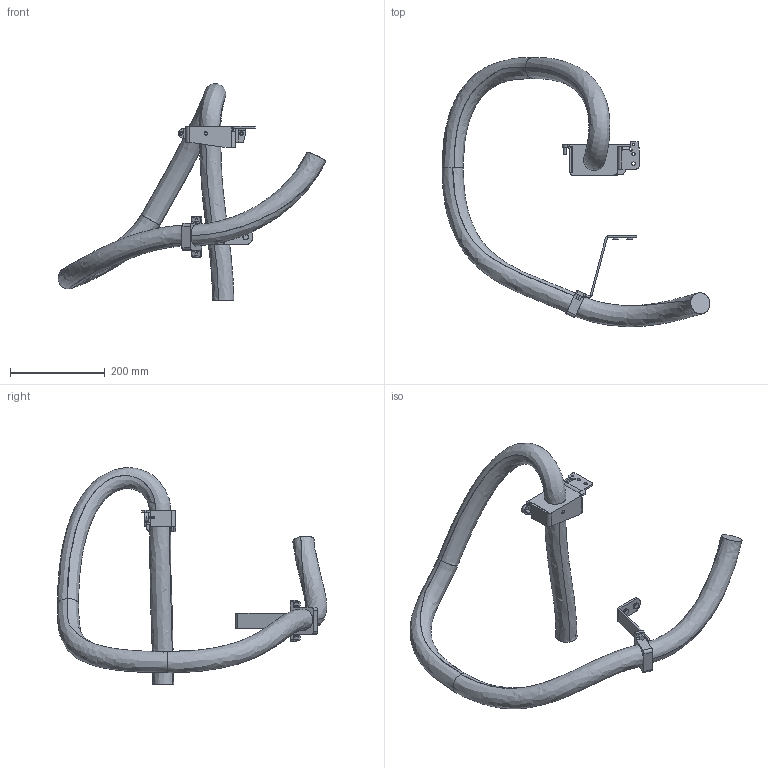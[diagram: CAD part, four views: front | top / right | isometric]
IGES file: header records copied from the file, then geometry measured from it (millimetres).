
Start section: SolidWorks IGES file using analytic representation for surfaces
Global section: file name: C:\Users\SEALDUN\OneDrive - ABB\Documents\R&D Robotics\Work Items\WI 632927 light weight hole removal\IGES\IRB5720-MH3_180kg-260_OC_03_IGES_J\IRB5720-MH3_180kg-260_OmniCore_rev00_LINK01_CABLE.igs; native system: SolidWorks 2024; preprocessor: SolidWorks 2024; author: SEALDUN; date: 250708.132450; units: millimetre
Bounding box: 565.63 x 568.15 x 457.41 mm (x, y, z)
Surface area: 337817.3 mm2 (no closed solid volume)
Topology: 0 solids, 0 shells, 235 faces, 3293 edges, 3263 vertices
Faces by surface type: revolution 121, bspline 114
